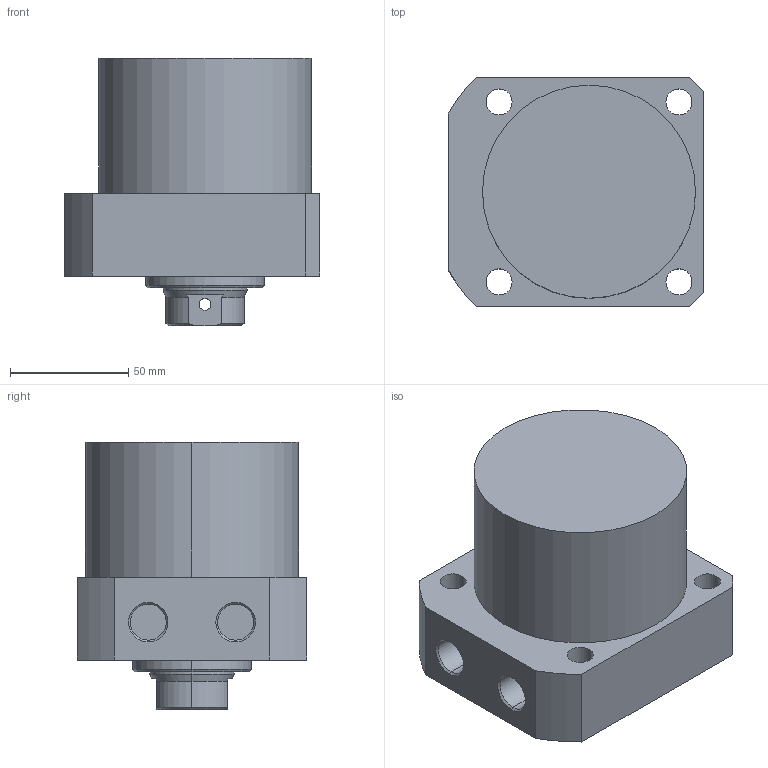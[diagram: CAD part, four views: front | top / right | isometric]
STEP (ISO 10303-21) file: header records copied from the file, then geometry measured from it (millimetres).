
FILE_DESCRIPTION (( 'STEP AP203' ), '1' );
FILE_NAME ('CLLR-090CB-035.STEP', '2019-12-19T02:29:36', ( '' ), ( '' ), 'SwSTEP 2.0', 'SolidWorks 2015', '' );
FILE_SCHEMA (( 'CONFIG_CONTROL_DESIGN' ));
Length unit declared in the file: millimetre
Products named in the file (1): CLLR-090CB-035
Bounding box: 108 x 97 x 113 mm (x, y, z)
Volume: 712632.5 mm3; surface area: 61302 mm2
Topology: 1 solids, 1 shells, 67 faces, 161 edges, 102 vertices
Faces by surface type: cylinder 33, plane 19, cone 15
Entity records: 2179 total; most frequent: CARTESIAN_POINT 477, DIRECTION 360, ORIENTED_EDGE 318, EDGE_CURVE 159, AXIS2_PLACEMENT_3D 145, VERTEX_POINT 102, EDGE_LOOP 87, CIRCLE 77
